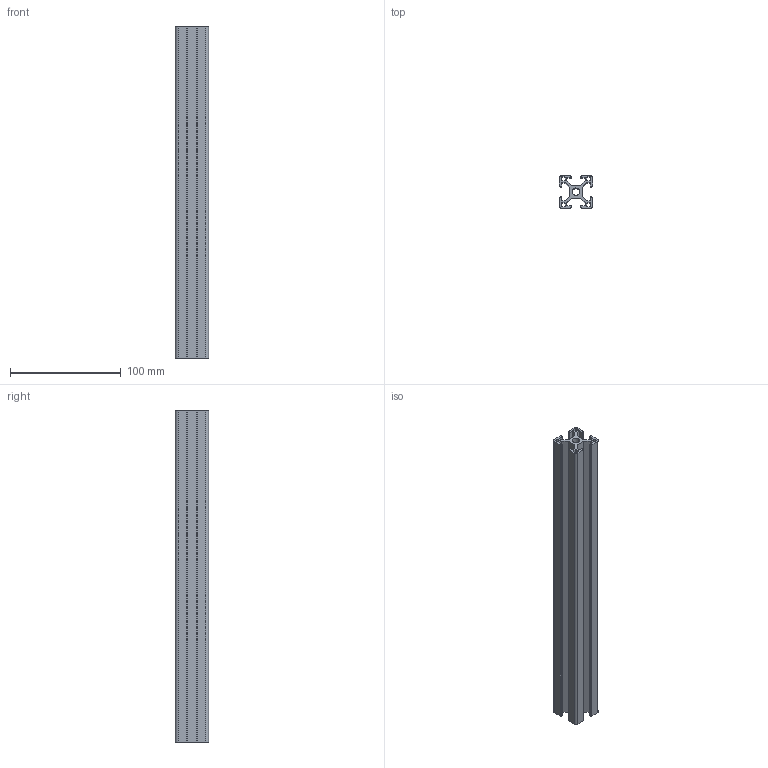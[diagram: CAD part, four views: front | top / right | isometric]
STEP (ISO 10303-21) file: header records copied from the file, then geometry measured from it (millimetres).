
FILE_DESCRIPTION (( 'STEP AP203' ), '1' );
FILE_NAME ('12-CE-3030-8.STEP', '2015-07-07T02:54:19', ( '' ), ( '' ), 'SwSTEP 2.0', 'SolidWorks 2013', '' );
FILE_SCHEMA (( 'CONFIG_CONTROL_DESIGN' ));
Length unit declared in the file: millimetre
Products named in the file (1): 12-CE-3030-8
Bounding box: 30 x 30 x 300 mm (x, y, z)
Volume: 97841 mm3; surface area: 94061.3 mm2
Topology: 1 solids, 1 shells, 100 faces, 294 edges, 196 vertices
Faces by surface type: plane 78, cylinder 22
Entity records: 3399 total; most frequent: CARTESIAN_POINT 591, ORIENTED_EDGE 588, DIRECTION 540, EDGE_CURVE 294, VECTOR 250, LINE 250, VERTEX_POINT 196, AXIS2_PLACEMENT_3D 145
